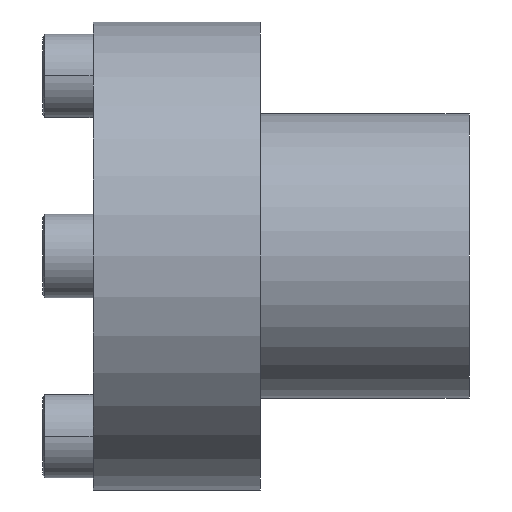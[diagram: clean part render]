
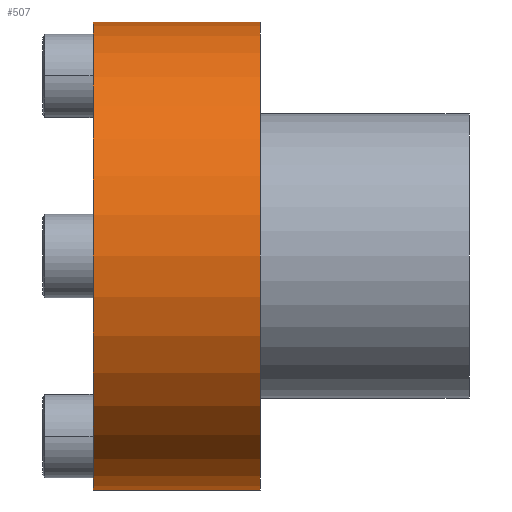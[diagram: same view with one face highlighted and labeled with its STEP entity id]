
A CAD part, front view. The second image highlights one B-rep face of the part: STEP entity #507.
In plain terms, the highlighted cylindrical face has radius 28 mm (diameter 56 mm), a partial arc.
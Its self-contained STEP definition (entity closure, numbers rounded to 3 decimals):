
#90 = DIRECTION ( 'NONE',  ( 0., 0., 1. ) ) ;
#91 = DIRECTION ( 'NONE',  ( -1., 0., 0. ) ) ;
#92 = CARTESIAN_POINT ( 'NONE',  ( 20., 0., 0. ) ) ;
#93 = AXIS2_PLACEMENT_3D ( 'NONE', #92, #91, #90 ) ;
#94 = DIRECTION ( 'NONE',  ( 0., 0., 1. ) ) ;
#95 = DIRECTION ( 'NONE',  ( -1., 0., 0. ) ) ;
#96 = CARTESIAN_POINT ( 'NONE',  ( 0., 0., 0. ) ) ;
#97 = AXIS2_PLACEMENT_3D ( 'NONE', #96, #95, #94 ) ;
#98 = CIRCLE ( 'NONE', #93, 28. ) ;
#99 = CYLINDRICAL_SURFACE ( 'NONE', #97, 28. ) ;
#100 = FACE_OUTER_BOUND ( 'NONE', #508, .T. ) ;
#316 = EDGE_CURVE ( 'NONE', #353, #356, #1351, .T. ) ;
#349 = VERTEX_POINT ( 'NONE', #1359 ) ;
#350 = VERTEX_POINT ( 'NONE', #1358 ) ;
#352 = EDGE_CURVE ( 'NONE', #350, #353, #1357, .T. ) ;
#353 = VERTEX_POINT ( 'NONE', #1353 ) ;
#356 = VERTEX_POINT ( 'NONE', #1521 ) ;
#358 = EDGE_CURVE ( 'NONE', #349, #356, #1520, .T. ) ;
#507 = ADVANCED_FACE ( 'NONE', ( #100 ), #99, .T. ) ;
#508 = EDGE_LOOP ( 'NONE', ( #509, #510, #512, #594 ) ) ;
#509 = ORIENTED_EDGE ( 'NONE', *, *, #352, .F. ) ;
#510 = ORIENTED_EDGE ( 'NONE', *, *, #511, .T. ) ;
#511 = EDGE_CURVE ( 'NONE', #350, #349, #98, .T. ) ;
#512 = ORIENTED_EDGE ( 'NONE', *, *, #358, .T. ) ;
#594 = ORIENTED_EDGE ( 'NONE', *, *, #316, .F. ) ;
#1349 = DIRECTION ( 'NONE',  ( 0., 0., 1. ) ) ;
#1350 = AXIS2_PLACEMENT_3D ( 'NONE', #1371, #1370, #1349 ) ;
#1351 = CIRCLE ( 'NONE', #1350, 28. ) ;
#1353 = CARTESIAN_POINT ( 'NONE',  ( 0., 0., -28. ) ) ;
#1354 = DIRECTION ( 'NONE',  ( -1., 0., 0. ) ) ;
#1355 = VECTOR ( 'NONE', #1354, 1000. ) ;
#1356 = CARTESIAN_POINT ( 'NONE',  ( 0., 0., -28. ) ) ;
#1357 = LINE ( 'NONE', #1356, #1355 ) ;
#1358 = CARTESIAN_POINT ( 'NONE',  ( 20., 0., -28. ) ) ;
#1359 = CARTESIAN_POINT ( 'NONE',  ( 20., 0., 28. ) ) ;
#1370 = DIRECTION ( 'NONE',  ( -1., 0., 0. ) ) ;
#1371 = CARTESIAN_POINT ( 'NONE',  ( 0., 0., 0. ) ) ;
#1517 = DIRECTION ( 'NONE',  ( -1., 0., 0. ) ) ;
#1518 = VECTOR ( 'NONE', #1517, 1000. ) ;
#1519 = CARTESIAN_POINT ( 'NONE',  ( 0., 0., 28. ) ) ;
#1520 = LINE ( 'NONE', #1519, #1518 ) ;
#1521 = CARTESIAN_POINT ( 'NONE',  ( 0., 0., 28. ) ) ;
